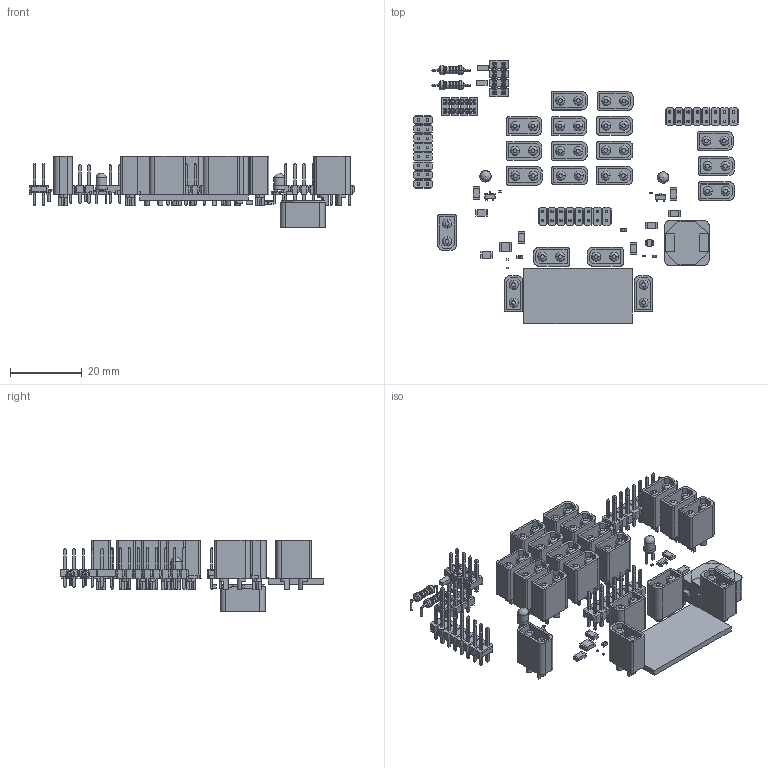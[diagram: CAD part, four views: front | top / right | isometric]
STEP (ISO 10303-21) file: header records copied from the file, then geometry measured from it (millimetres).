
FILE_DESCRIPTION(('Open CASCADE Model'),'2;1');
FILE_NAME('Open CASCADE Shape Model','2019-01-02T20:30:01',('Author'),( 'Open CASCADE'),'Open CASCADE STEP processor 6.5','Open CASCADE 6.5' ,'Unknown');
FILE_SCHEMA(('AUTOMOTIVE_DESIGN { 1 0 10303 214 1 1 1 1 }'));
Length unit declared in the file: millimetre
Products named in the file (110): PCB; Board; 3_3V; m20-9980846_asm; M20-998-MOULD; M20-998-PIN; U1; tps565208; R11; 1451635280; Extruded; 1451635408; R10; 1451635024; 1451618384; R9; 0402_SMD_Resistor; R8; R7; User_Library-Res40-Axial_Short_0_25W-5_6K; R6; R5; R4; R3; R2; 1451624016; 1451631184; R1; PG2; SOT_23; PG1; L2; User_Library-Inductor_SRR1280_Series; J18; XT30U-M(1); 12V_Out; J16; J15; J14; J13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
Assembly tree (183 placements, depth 4):
  PCB
    Board
    3_3V
      m20-9980846_asm
        M20-998-MOULD
        M20-998-PIN  x16
    U1
      tps565208
    R11
      1451635280  x2
        Extruded
      1451635408
        Extruded
    R10
      1451635024
        Extruded
      1451618384  x2
        Extruded
    R9
      0402_SMD_Resistor
    R8
      1451635280  x2
        Extruded
      1451635408
        Extruded
    R7
      User_Library-Res40-Axial_Short_0_25W-5_6K
    R6
      User_Library-Res40-Axial_Short_0_25W-5_6K
    R5
      1451635024
        Extruded
      1451618384  x2
        Extruded
    R4
      1451635280  x2
        Extruded
      1451635408
        Extruded
    R3
      1451635280  x2
        Extruded
      1451635408
        Extruded
    R2
      1451624016
        Extruded
      1451631184  x2
        Extruded
    R1
      1451635280  x2
        Extruded
      1451635408
        Extruded
    PG2
      SOT_23
    PG1
      SOT_23
    L2
      User_Library-Inductor_SRR1280_Series
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Bounding box: 90.46 x 73.43 x 19.86 mm (x, y, z)
Volume: 10118.8 mm3; surface area: 20579.6 mm2
Topology: 143 solids, 143 shells, 4021 faces, 9414 edges, 5808 vertices
Faces by surface type: plane 3287, cylinder 511, revolution 76, bspline 67, cone 48, sphere 26, extrusion 6
Full cylindrical faces by diameter (mm): 0.08 x2, 3 x2, 3.2 x2
Entity records: 84949 total; most frequent: CARTESIAN_POINT 20741, DIRECTION 10505, VECTOR 7076, LINE 7073, ORIENTED_EDGE 5688, PCURVE 5688, DEFINITIONAL_REPRESENTATION 5688, EDGE_CURVE 2844
